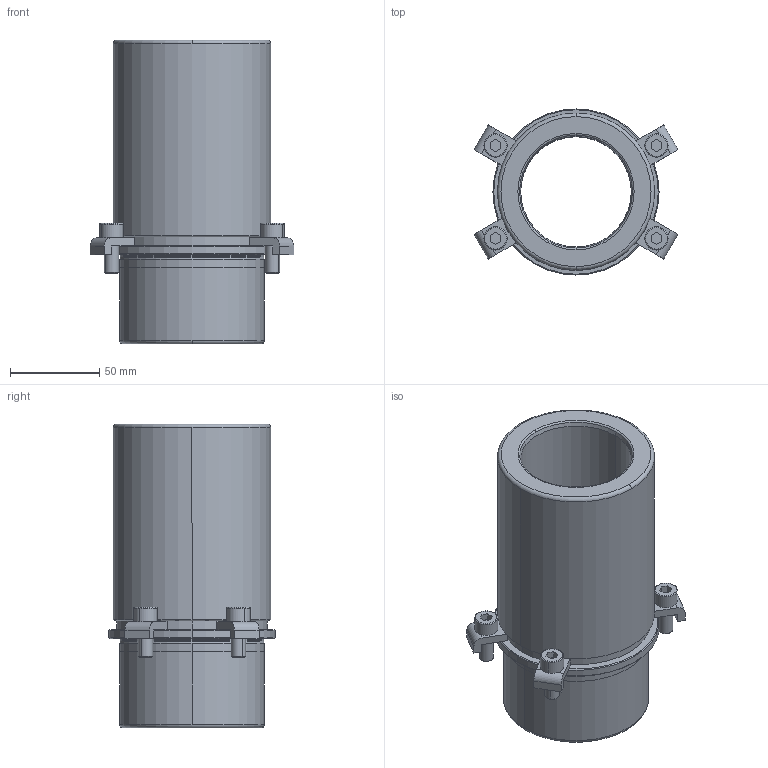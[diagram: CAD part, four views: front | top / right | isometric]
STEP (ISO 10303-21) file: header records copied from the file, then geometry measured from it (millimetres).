
FILE_DESCRIPTION((''),'2;1');
FILE_NAME('B40_050_120.stp','2009-01-05T16:42:39',(''),(''),'Mechanical Desktop 2009','Mechanical Desktop 2009',', , ');
FILE_SCHEMA(('CONFIG_CONTROL_DESIGN'));
Length unit declared in the file: millimetre
Products named in the file (2): Product; blmdl1
Assembly tree (1 placements, depth 2):
  Product
    blmdl1
Bounding box: 114.12 x 93 x 170 mm (x, y, z)
Volume: 487380.4 mm3; surface area: 95522.1 mm2
Topology: 9 solids, 9 shells, 173 faces, 422 edges, 278 vertices
Faces by surface type: plane 73, cylinder 50, cone 22, torus 16, bspline 12
Entity records: 5767 total; most frequent: CARTESIAN_POINT 1403, DIRECTION 966, ORIENTED_EDGE 844, EDGE_CURVE 422, AXIS2_PLACEMENT_3D 381, VERTEX_POINT 278, CIRCLE 218, VECTOR 204
